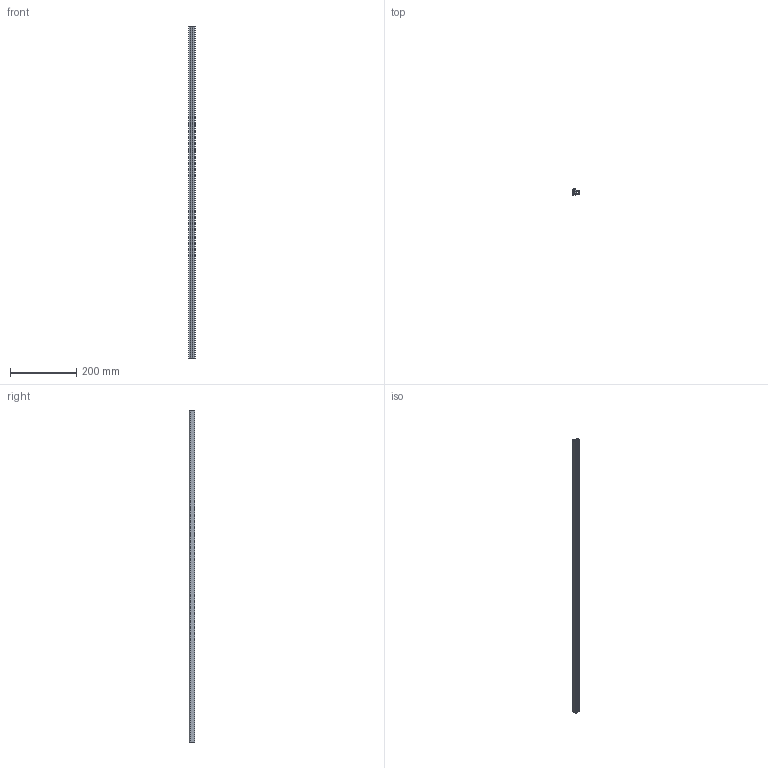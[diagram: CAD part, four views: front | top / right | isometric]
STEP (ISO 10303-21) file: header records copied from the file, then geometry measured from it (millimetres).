
FILE_DESCRIPTION (( 'STEP AP214' ), '1' );
FILE_NAME ('EBET-02.STEP', '2016-02-03T11:39:59', ( '' ), ( '' ), 'SwSTEP 2.0', 'SolidWorks 2012', '' );
FILE_SCHEMA (( 'AUTOMOTIVE_DESIGN' ));
Length unit declared in the file: millimetre
Products named in the file (1): EBET-02
Bounding box: 20.34 x 16.7 x 1000 mm (x, y, z)
Volume: 143929.2 mm3; surface area: 146065.9 mm2
Topology: 1 solids, 1 shells, 63 faces, 183 edges, 122 vertices
Faces by surface type: cylinder 36, plane 27
Entity records: 2147 total; most frequent: DIRECTION 383, CARTESIAN_POINT 369, ORIENTED_EDGE 366, EDGE_CURVE 183, AXIS2_PLACEMENT_3D 136, VERTEX_POINT 122, LINE 111, VECTOR 111
